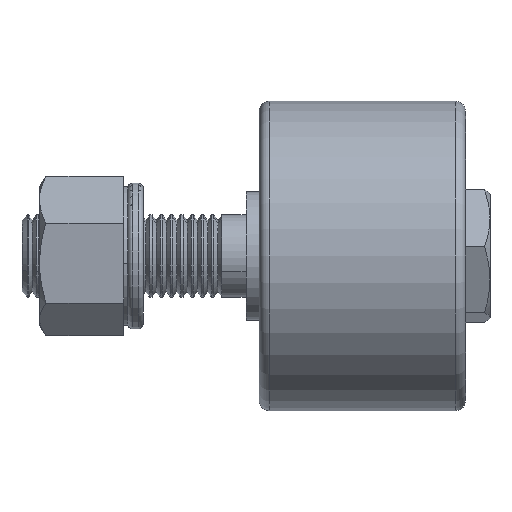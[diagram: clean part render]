
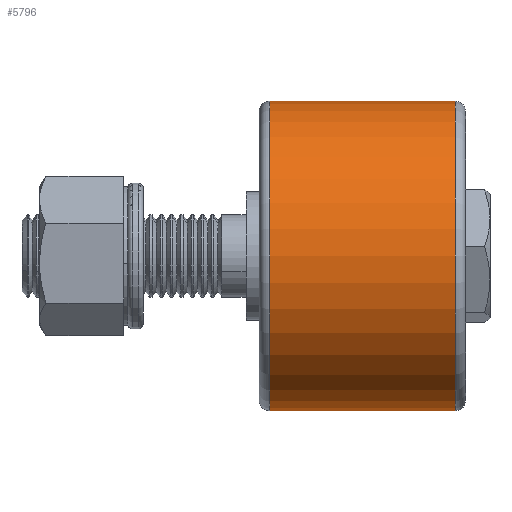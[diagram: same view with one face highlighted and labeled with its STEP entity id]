
A CAD part, front view. The second image highlights one B-rep face of the part: STEP entity #5796.
In plain terms, the highlighted cylindrical face has radius 30 mm (diameter 60 mm), a partial arc.
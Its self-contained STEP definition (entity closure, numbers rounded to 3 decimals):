
#163 = EDGE_CURVE ( 'NONE', #9159, #1654, #3181, .T. ) ;
#323 = AXIS2_PLACEMENT_3D ( 'NONE', #8738, #2825, #8675 ) ;
#330 = DIRECTION ( 'NONE',  ( 0., 0., 1. ) ) ;
#760 = CIRCLE ( 'NONE', #9177, 30. ) ;
#1093 = DIRECTION ( 'NONE',  ( -1., 0., 0. ) ) ;
#1108 = DIRECTION ( 'NONE',  ( -1., 0., 0. ) ) ;
#1654 = VERTEX_POINT ( 'NONE', #3122 ) ;
#1815 = EDGE_CURVE ( 'NONE', #5307, #1654, #760, .T. ) ;
#1895 = VECTOR ( 'NONE', #4091, 1000. ) ;
#2577 = FACE_OUTER_BOUND ( 'NONE', #7921, .T. ) ;
#2705 = CARTESIAN_POINT ( 'NONE',  ( 0., 0., 30. ) ) ;
#2825 = DIRECTION ( 'NONE',  ( -1., 0., 0. ) ) ;
#3122 = CARTESIAN_POINT ( 'NONE',  ( -18., 0., 30. ) ) ;
#3181 = LINE ( 'NONE', #2705, #7411 ) ;
#3274 = CARTESIAN_POINT ( 'NONE',  ( -18., 0., 0. ) ) ;
#3368 = CARTESIAN_POINT ( 'NONE',  ( -18., 0., -30. ) ) ;
#3829 = LINE ( 'NONE', #6171, #1895 ) ;
#4091 = DIRECTION ( 'NONE',  ( -1., 0., 0. ) ) ;
#4651 = AXIS2_PLACEMENT_3D ( 'NONE', #7001, #1093, #330 ) ;
#5307 = VERTEX_POINT ( 'NONE', #3368 ) ;
#5426 = EDGE_CURVE ( 'NONE', #8632, #9159, #7729, .T. ) ;
#5592 = DIRECTION ( 'NONE',  ( -1., 0., 0. ) ) ;
#5786 = EDGE_CURVE ( 'NONE', #8632, #5307, #3829, .T. ) ;
#5796 = ADVANCED_FACE ( 'NONE', ( #2577 ), #7042, .T. ) ;
#6171 = CARTESIAN_POINT ( 'NONE',  ( 0., 0., -30. ) ) ;
#6675 = ORIENTED_EDGE ( 'NONE', *, *, #5426, .T. ) ;
#6806 = ORIENTED_EDGE ( 'NONE', *, *, #163, .T. ) ;
#6919 = DIRECTION ( 'NONE',  ( 0., 0., 1. ) ) ;
#7001 = CARTESIAN_POINT ( 'NONE',  ( 0., 0., 0. ) ) ;
#7042 = CYLINDRICAL_SURFACE ( 'NONE', #4651, 30. ) ;
#7411 = VECTOR ( 'NONE', #5592, 1000. ) ;
#7729 = CIRCLE ( 'NONE', #323, 30. ) ;
#7921 = EDGE_LOOP ( 'NONE', ( #8158, #6675, #6806, #7971 ) ) ;
#7971 = ORIENTED_EDGE ( 'NONE', *, *, #1815, .F. ) ;
#8158 = ORIENTED_EDGE ( 'NONE', *, *, #5786, .F. ) ;
#8380 = CARTESIAN_POINT ( 'NONE',  ( 18., 0., 30. ) ) ;
#8632 = VERTEX_POINT ( 'NONE', #9257 ) ;
#8675 = DIRECTION ( 'NONE',  ( 0., 0., 1. ) ) ;
#8738 = CARTESIAN_POINT ( 'NONE',  ( 18., 0., 0. ) ) ;
#9159 = VERTEX_POINT ( 'NONE', #8380 ) ;
#9177 = AXIS2_PLACEMENT_3D ( 'NONE', #3274, #1108, #6919 ) ;
#9257 = CARTESIAN_POINT ( 'NONE',  ( 18., 0., -30. ) ) ;
